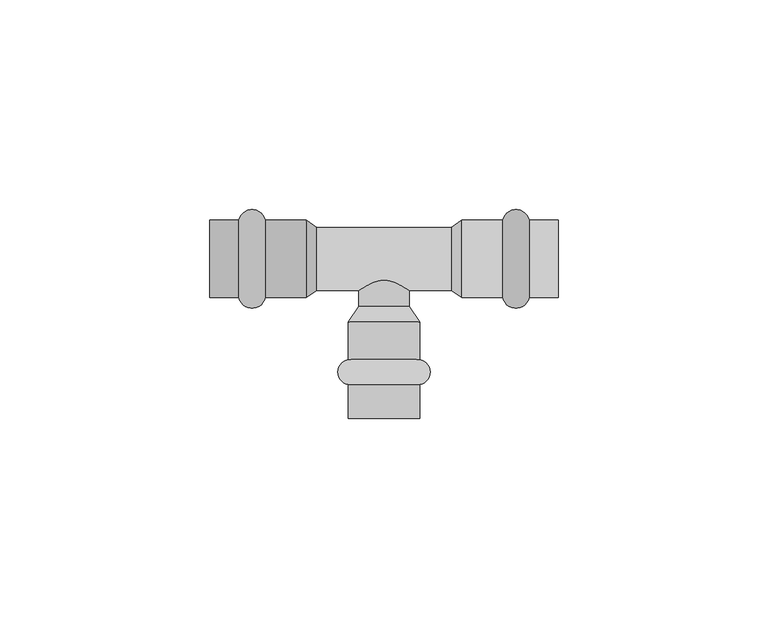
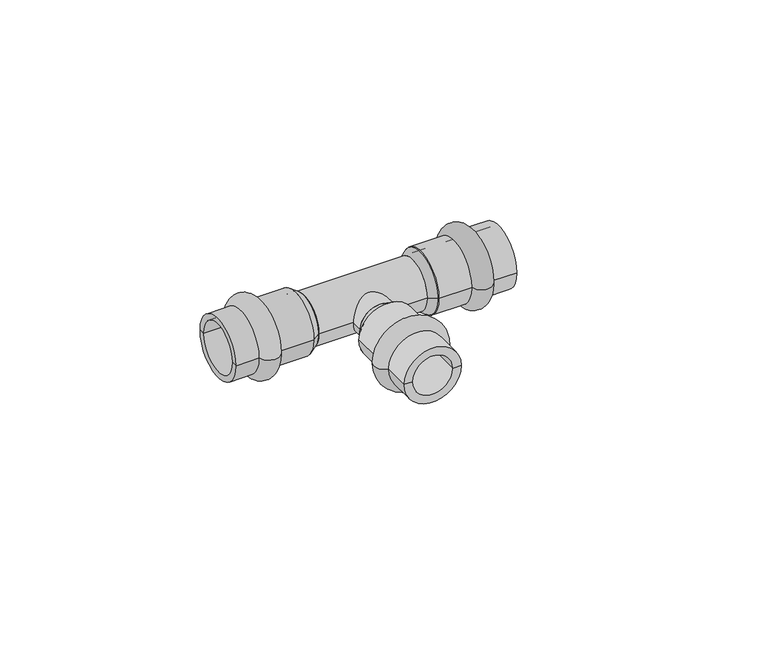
"""IFC4 building model written with IfcOpenShell, lengths in millimetres: pipe fitting geometry, VALTEC_VTi.931.I_Тройник_Ннержавеющая сталь : VTi.931.I."""

from ifc_helpers import new_model, si_unit, point, frame, origin, origin_2d, place, context, project, spatial, polyline, circle_curve, ellipse_curve, trimmed, segment, composite_curve, outline, extrude, source, transform, mapped, element, save
from ifc_brep_helpers import plane_surface, cylinder_surface, revolved_surface, advanced_brep


def pipe_fitting_9c7c7af7(model_context):
    return source(origin(), model_context, "Body", "SolidModel", [
        advanced_brep(
        [(8.5, -29.9580399, 0.0), (-8.5, -29.9580399, 0.0), (-8.5, -24.0419601, 0.0), (8.5, -24.0419601, 0.0), (8.5, -38.0, 0.0), (-8.5, -38.0, 0.0), (6.0, -38.0, 0.0), (-6.0, -38.0, 0.0), (6.0, -15.0, 0.0), (-6.0, -15.0, 0.0), (8.5, -15.0, 0.0), (-8.5, -15.0, 0.0)],
        [
            (0, 1, circle_curve(frame((0.0, -29.9580399, 0.0), z_axis=(0.0, 1.0, 0.0), x_axis=(-1.0, 0.0, 0.0)), 8.5)),
            (1, 2, circle_curve(frame((-8.0, -27.0, 0.0), z_axis=(0.0, 0.0, -1.0), x_axis=(0.0, 1.0, 0.0)), 3.0)),
            (2, 3, circle_curve(frame((0.0, -24.0419601, 0.0), z_axis=(0.0, -1.0, 0.0), x_axis=(-1.0, 0.0, 0.0)), 8.5)),
            (3, 0, circle_curve(frame((8.0, -27.0, 0.0), z_axis=(0.0, 0.0, -1.0), x_axis=(0.0, 1.0, 0.0)), 3.0)),
            (1, 0, circle_curve(frame((0.0, -29.9580399, 0.0), z_axis=(0.0, 1.0, 0.0), x_axis=(-1.0, 0.0, 0.0)), 8.5)),
            (3, 2, circle_curve(frame((0.0, -24.0419601, 0.0), z_axis=(0.0, -1.0, 0.0), x_axis=(-1.0, 0.0, 0.0)), 8.5)),
            (4, 5, circle_curve(frame((0.0, -38.0, 0.0), z_axis=(0.0, 1.0, 0.0), x_axis=(-1.0, 0.0, 0.0)), 8.5)),
            (5, 1),
            (0, 4),
            (5, 4, circle_curve(frame((0.0, -38.0, 0.0), z_axis=(0.0, 1.0, 0.0), x_axis=(-1.0, 0.0, 0.0)), 8.5)),
            (6, 7, circle_curve(frame((0.0, -38.0, 0.0), z_axis=(0.0, 1.0, 0.0), x_axis=(-1.0, 0.0, 0.0)), 6.0)),
            (7, 5),
            (4, 6),
            (7, 6, circle_curve(frame((0.0, -38.0, 0.0), z_axis=(0.0, 1.0, 0.0), x_axis=(-1.0, 0.0, 0.0)), 6.0)),
            (8, 9, circle_curve(frame((0.0, -15.0, 0.0), z_axis=(0.0, 1.0, 0.0), x_axis=(-1.0, 0.0, 0.0)), 6.0)),
            (9, 7),
            (6, 8),
            (9, 8, circle_curve(frame((0.0, -15.0, 0.0), z_axis=(0.0, 1.0, 0.0), x_axis=(-1.0, 0.0, 0.0)), 6.0)),
            (10, 11, circle_curve(frame((0.0, -15.0, 0.0), z_axis=(0.0, 1.0, 0.0), x_axis=(-1.0, 0.0, 0.0)), 8.5)),
            (11, 9),
            (8, 10),
            (11, 10, circle_curve(frame((0.0, -15.0, 0.0), z_axis=(0.0, 1.0, 0.0), x_axis=(-1.0, 0.0, 0.0)), 8.5)),
            (2, 11),
            (10, 3),
        ],
        [
            revolved_surface(trimmed(ellipse_curve(frame((-8.0, -27.0, 0.0), z_axis=(0.0, 0.0, 1.0), x_axis=(0.0, 1.0, 0.0)), 3.0, 3.0), [point((-8.5, -24.0419601, 0.0))], [point((-8.5, -29.9580399, 0.0))], True, "CARTESIAN"), (0.0, -41.5364426, 0.0), (0.0, -1.0, 0.0)),
            cylinder_surface(frame((0.0, -41.5364426, 0.0), z_axis=(0.0, -1.0, 0.0), x_axis=(-1.0, 0.0, 0.0)), 8.5),
            plane_surface(frame((0.0, -38.0, 0.0), z_axis=(0.0, -1.0, 0.0), x_axis=(-1.0, 0.0, 0.0))),
            revolved_surface(polyline([(-6.0, -38.0, 0.0), (-6.0, -15.0, 0.0)]), (0.0, -41.5364426, 0.0), (0.0, -1.0, 0.0)),
            plane_surface(frame((0.0, -15.0, 0.0), z_axis=(0.0, 1.0, 0.0), x_axis=(-1.0, 0.0, 0.0))),
        ],
        [
            (0, [[1, 2, 3, 4]]),
            (0, [[5, -4, 6, -2]]),
            (1, [[7, 8, -1, 9]]),
            (1, [[10, -9, -5, -8]]),
            (2, [[11, 12, -7, 13]]),
            (2, [[14, -13, -10, -12]]),
            (3, [[15, 16, -11, 17]]),
            (3, [[18, -17, -14, -16]]),
            (4, [[19, 20, -15, 21]]),
            (4, [[22, -21, -18, -20]]),
            (1, [[-3, 23, -19, 24]]),
            (1, [[-6, -24, -22, -23]]),
        ],
    ),
        advanced_brep(
        [(34.6122777, 9.25, 0.0), (34.6122777, -9.25, 0.0), (28.2877223, -9.25, 0.0), (28.2877223, 9.25, 0.0), (41.5, 9.25, 0.0), (41.5, -9.25, 0.0), (41.5, 7.5, 0.0), (41.5, -7.5, 0.0), (18.5, 7.5, 0.0), (18.5, -7.5, 0.0), (18.5, 9.25, 0.0), (18.5, -9.25, 0.0)],
        [
            (0, 1, circle_curve(frame((34.6122777, 0.0, 0.0), z_axis=(-1.0, 0.0, 0.0), x_axis=(0.0, -1.0, 0.0)), 9.25)),
            (1, 2, circle_curve(frame((31.45, -8.5, 0.0), z_axis=(0.0, 0.0, -1.0), x_axis=(-1.0, 0.0, 0.0)), 3.25)),
            (2, 3, circle_curve(frame((28.2877223, 0.0, 0.0), z_axis=(1.0, 0.0, 0.0), x_axis=(0.0, -1.0, 0.0)), 9.25)),
            (3, 0, circle_curve(frame((31.45, 8.5, 0.0), z_axis=(0.0, 0.0, -1.0), x_axis=(-1.0, 0.0, 0.0)), 3.25)),
            (1, 0, circle_curve(frame((34.6122777, 0.0, 0.0), z_axis=(-1.0, 0.0, 0.0), x_axis=(0.0, -1.0, 0.0)), 9.25)),
            (3, 2, circle_curve(frame((28.2877223, 0.0, 0.0), z_axis=(1.0, 0.0, 0.0), x_axis=(0.0, -1.0, 0.0)), 9.25)),
            (4, 5, circle_curve(frame((41.5, 0.0, 0.0), z_axis=(-1.0, 0.0, 0.0), x_axis=(0.0, -1.0, 0.0)), 9.25)),
            (5, 1),
            (0, 4),
            (5, 4, circle_curve(frame((41.5, 0.0, 0.0), z_axis=(-1.0, 0.0, 0.0), x_axis=(0.0, -1.0, 0.0)), 9.25)),
            (6, 7, circle_curve(frame((41.5, 0.0, 0.0), z_axis=(-1.0, 0.0, 0.0), x_axis=(0.0, -1.0, 0.0)), 7.5)),
            (7, 5),
            (4, 6),
            (7, 6, circle_curve(frame((41.5, 0.0, 0.0), z_axis=(-1.0, 0.0, 0.0), x_axis=(0.0, -1.0, 0.0)), 7.5)),
            (8, 9, circle_curve(frame((18.5, 0.0, 0.0), z_axis=(-1.0, 0.0, 0.0), x_axis=(0.0, -1.0, 0.0)), 7.5)),
            (9, 7),
            (6, 8),
            (9, 8, circle_curve(frame((18.5, 0.0, 0.0), z_axis=(-1.0, 0.0, 0.0), x_axis=(0.0, -1.0, 0.0)), 7.5)),
            (10, 11, circle_curve(frame((18.5, 0.0, 0.0), z_axis=(-1.0, 0.0, 0.0), x_axis=(0.0, -1.0, 0.0)), 9.25)),
            (11, 9),
            (8, 10),
            (11, 10, circle_curve(frame((18.5, 0.0, 0.0), z_axis=(-1.0, 0.0, 0.0), x_axis=(0.0, -1.0, 0.0)), 9.25)),
            (2, 11),
            (10, 3),
        ],
        [
            revolved_surface(trimmed(ellipse_curve(frame((31.45, -8.5, 0.0), z_axis=(0.0, 0.0, 1.0), x_axis=(-1.0, 0.0, 0.0)), 3.25, 3.25), [point((28.2877223, -9.25, 0.0))], [point((34.6122777, -9.25, 0.0))], True, "CARTESIAN"), (45.0364426, 0.0, 0.0), (1.0, 0.0, 0.0)),
            cylinder_surface(frame((45.0364426, 0.0, 0.0), z_axis=(1.0, 0.0, 0.0), x_axis=(0.0, -1.0, 0.0)), 9.25),
            plane_surface(frame((41.5, 0.0, 0.0), z_axis=(1.0, 0.0, 0.0), x_axis=(0.0, -1.0, 0.0))),
            revolved_surface(polyline([(41.5, -7.5, 0.0), (18.5, -7.5, 0.0)]), (45.0364426, 0.0, 0.0), (1.0, 0.0, 0.0)),
            plane_surface(frame((18.5, 0.0, 0.0), z_axis=(-1.0, 0.0, 0.0), x_axis=(0.0, -1.0, 0.0))),
        ],
        [
            (0, [[1, 2, 3, 4]]),
            (0, [[5, -4, 6, -2]]),
            (1, [[7, 8, -1, 9]]),
            (1, [[10, -9, -5, -8]]),
            (2, [[11, 12, -7, 13]]),
            (2, [[14, -13, -10, -12]]),
            (3, [[15, 16, -11, 17]]),
            (3, [[18, -17, -14, -16]]),
            (4, [[19, 20, -15, 21]]),
            (4, [[22, -21, -18, -20]]),
            (1, [[-3, 23, -19, 24]]),
            (1, [[-6, -24, -22, -23]]),
        ],
    ),
        advanced_brep(
        [(-34.6122777, -9.25, 0.0), (-34.6122777, 9.25, 0.0), (-28.2877223, 9.25, 0.0), (-28.2877223, -9.25, 0.0), (-41.5, -9.25, 0.0), (-41.5, 9.25, 0.0), (-41.5, -7.5, 0.0), (-41.5, 7.5, 0.0), (-18.5, -7.5, 0.0), (-18.5, 7.5, 0.0), (-18.5, -9.25, 0.0), (-18.5, 9.25, 0.0)],
        [
            (0, 1, circle_curve(frame((-34.6122777, 0.0, 0.0), z_axis=(1.0, 0.0, 0.0), x_axis=(0.0, 1.0, 0.0)), 9.25)),
            (1, 2, circle_curve(frame((-31.45, 8.5, 0.0), z_axis=(0.0, 0.0, -1.0), x_axis=(1.0, 0.0, 0.0)), 3.25)),
            (2, 3, circle_curve(frame((-28.2877223, 0.0, 0.0), z_axis=(-1.0, 0.0, 0.0), x_axis=(0.0, 1.0, 0.0)), 9.25)),
            (3, 0, circle_curve(frame((-31.45, -8.5, 0.0), z_axis=(0.0, 0.0, -1.0), x_axis=(1.0, 0.0, 0.0)), 3.25)),
            (1, 0, circle_curve(frame((-34.6122777, 0.0, 0.0), z_axis=(1.0, 0.0, 0.0), x_axis=(0.0, 1.0, 0.0)), 9.25)),
            (3, 2, circle_curve(frame((-28.2877223, 0.0, 0.0), z_axis=(-1.0, 0.0, 0.0), x_axis=(0.0, 1.0, 0.0)), 9.25)),
            (4, 5, circle_curve(frame((-41.5, 0.0, 0.0), z_axis=(1.0, 0.0, 0.0), x_axis=(0.0, 1.0, 0.0)), 9.25)),
            (5, 1),
            (0, 4),
            (5, 4, circle_curve(frame((-41.5, 0.0, 0.0), z_axis=(1.0, 0.0, 0.0), x_axis=(0.0, 1.0, 0.0)), 9.25)),
            (6, 7, circle_curve(frame((-41.5, 0.0, 0.0), z_axis=(1.0, 0.0, 0.0), x_axis=(0.0, 1.0, 0.0)), 7.5)),
            (7, 5),
            (4, 6),
            (7, 6, circle_curve(frame((-41.5, 0.0, 0.0), z_axis=(1.0, 0.0, 0.0), x_axis=(0.0, 1.0, 0.0)), 7.5)),
            (8, 9, circle_curve(frame((-18.5, 0.0, 0.0), z_axis=(1.0, 0.0, 0.0), x_axis=(0.0, 1.0, 0.0)), 7.5)),
            (9, 7),
            (6, 8),
            (9, 8, circle_curve(frame((-18.5, 0.0, 0.0), z_axis=(1.0, 0.0, 0.0), x_axis=(0.0, 1.0, 0.0)), 7.5)),
            (10, 11, circle_curve(frame((-18.5, 0.0, 0.0), z_axis=(1.0, 0.0, 0.0), x_axis=(0.0, 1.0, 0.0)), 9.25)),
            (11, 9),
            (8, 10),
            (11, 10, circle_curve(frame((-18.5, 0.0, 0.0), z_axis=(1.0, 0.0, 0.0), x_axis=(0.0, 1.0, 0.0)), 9.25)),
            (2, 11),
            (10, 3),
        ],
        [
            revolved_surface(trimmed(ellipse_curve(frame((-31.45, 8.5, 0.0), z_axis=(0.0, 0.0, 1.0), x_axis=(1.0, 0.0, 0.0)), 3.25, 3.25), [point((-28.2877223, 9.25, 0.0))], [point((-34.6122777, 9.25, 0.0))], True, "CARTESIAN"), (-45.0364426, 0.0, 0.0), (-1.0, 0.0, 0.0)),
            cylinder_surface(frame((-45.0364426, 0.0, 0.0), z_axis=(-1.0, 0.0, 0.0), x_axis=(0.0, 1.0, 0.0)), 9.25),
            plane_surface(frame((-41.5, 0.0, 0.0), z_axis=(-1.0, 0.0, 0.0), x_axis=(0.0, 1.0, 0.0))),
            revolved_surface(polyline([(-41.5, 7.5, 0.0), (-18.5, 7.5, 0.0)]), (-45.0364426, 0.0, 0.0), (-1.0, 0.0, 0.0)),
            plane_surface(frame((-18.5, 0.0, 0.0), z_axis=(1.0, 0.0, 0.0), x_axis=(0.0, 1.0, 0.0))),
        ],
        [
            (0, [[1, 2, 3, 4]]),
            (0, [[5, -4, 6, -2]]),
            (1, [[7, 8, -1, 9]]),
            (1, [[10, -9, -5, -8]]),
            (2, [[11, 12, -7, 13]]),
            (2, [[14, -13, -10, -12]]),
            (3, [[15, 16, -11, 17]]),
            (3, [[18, -17, -14, -16]]),
            (4, [[19, 20, -15, 21]]),
            (4, [[22, -21, -18, -20]]),
            (1, [[-3, 23, -19, 24]]),
            (1, [[-6, -24, -22, -23]]),
        ],
    ),
        extrude(outline(composite_curve([segment(trimmed(circle_curve(origin_2d(), 7.5), [point((-7.5, 0.0))], [point((7.5, 0.0))], False, "CARTESIAN"), True, "CONTINUOUS"), segment(trimmed(circle_curve(origin_2d(), 7.5), [point((7.5, 0.0))], [point((-7.5, 0.0))], False, "CARTESIAN"), True, "CONTINUOUS")], self_intersect=False)), frame((-16.0, 0.0, 0.0), z_axis=(1.0, 0.0, 0.0), x_axis=(0.0, 1.0, 0.0)), (0.0, 0.0, 1.0), 32.0),
        advanced_brep(
        [(-8.5, -15.0, 0.0), (8.5, -15.0, 0.0), (-6.0, -11.3209826, 0.0), (6.0, -11.3209826, 0.0)],
        [
            (0, 1, circle_curve(frame((0.0, -15.0, 0.0), z_axis=(0.0, -1.0, 0.0), x_axis=(-1.0, 0.0, 0.0)), 8.5)),
            (1, 0, circle_curve(frame((0.0, -15.0, 0.0), z_axis=(0.0, -1.0, 0.0), x_axis=(1.0, 0.0, 0.0)), 8.5)),
            (2, 3, circle_curve(frame((0.0, -11.3209826, 0.0), z_axis=(0.0, 1.0, 0.0), x_axis=(1.0, 0.0, 0.0)), 6.0)),
            (3, 2, circle_curve(frame((0.0, -11.3209826, 0.0), z_axis=(0.0, 1.0, 0.0), x_axis=(-1.0, 0.0, 0.0)), 6.0)),
            (3, 1),
            (0, 2),
        ],
        [
            plane_surface(frame((0.0, -15.0, 0.0), z_axis=(0.0, -1.0, 0.0), x_axis=(0.0, 0.0, 1.0))),
            plane_surface(frame((0.0, -11.3209826, 0.0), z_axis=(0.0, 1.0, 0.0), x_axis=(0.0, 0.0, 1.0))),
            revolved_surface(polyline([(6.000000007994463, -11.3209826, 0.0), (8.5, -15.0, 0.0)]), (0.0, -2.4913408, 0.0), (0.0, -1.0, 0.0)),
            revolved_surface(polyline([(-6.000000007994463, -11.3209826, 0.0), (-8.5, -15.0, 0.0)]), (0.0, -2.4913408, 0.0), (0.0, -1.0, 0.0)),
        ],
        [
            (0, [[1, 2]]),
            (1, [[3, 4]]),
            (2, [[-4, 5, -1, 6]]),
            (3, [[-3, -6, -2, -5]]),
        ],
    ),
        extrude(outline(composite_curve([segment(trimmed(circle_curve(origin_2d(), 6.0), [point((0.0, -6.0))], [point((0.0, 6.0))], False, "CARTESIAN"), True, "CONTINUOUS"), segment(trimmed(circle_curve(origin_2d(), 6.0), [point((0.0, 6.0))], [point((0.0, -6.0))], False, "CARTESIAN"), True, "CONTINUOUS")], self_intersect=False)), frame((0.0, -11.3209826, 0.0), z_axis=(0.0, 1.0, 0.0), x_axis=(0.0, 0.0, 1.0)), (0.0, 0.0, 1.0), 11.3209826),
        advanced_brep(
        [(18.5, -9.25, 0.0), (18.5, 9.25, 0.0), (16.0, -7.5, 0.0), (16.0, 7.5, 0.0)],
        [
            (0, 1, circle_curve(frame((18.5, 0.0, 0.0), z_axis=(1.0, 0.0, 0.0), x_axis=(0.0, -1.0, 0.0)), 9.25)),
            (1, 0, circle_curve(frame((18.5, 0.0, 0.0), z_axis=(1.0, 0.0, 0.0), x_axis=(0.0, 1.0, 0.0)), 9.25)),
            (2, 3, circle_curve(frame((16.0, 0.0, 0.0), z_axis=(-1.0, 0.0, 0.0), x_axis=(0.0, 1.0, 0.0)), 7.5)),
            (3, 2, circle_curve(frame((16.0, 0.0, 0.0), z_axis=(-1.0, 0.0, 0.0), x_axis=(0.0, -1.0, 0.0)), 7.5)),
            (3, 1),
            (0, 2),
        ],
        [
            plane_surface(frame((18.5, 0.0, 0.0), z_axis=(1.0, 0.0, 0.0), x_axis=(0.0, 0.0, 1.0))),
            plane_surface(frame((16.0, 0.0, 0.0), z_axis=(-1.0, 0.0, 0.0), x_axis=(0.0, 0.0, 1.0))),
            revolved_surface(polyline([(16.0, 7.499999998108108, 0.0), (18.5, 9.25, 0.0)]), (5.2857143, 0.0, 0.0), (1.0, 0.0, 0.0)),
            revolved_surface(polyline([(16.0, -7.499999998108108, 0.0), (18.5, -9.25, 0.0)]), (5.2857143, 0.0, 0.0), (1.0, 0.0, 0.0)),
        ],
        [
            (0, [[1, 2]]),
            (1, [[3, 4]]),
            (2, [[-4, 5, -1, 6]]),
            (3, [[-3, -6, -2, -5]]),
        ],
    ),
        advanced_brep(
        [(-18.5, -9.25, 0.0), (-18.5, 9.25, 0.0), (-16.0, -7.5, 0.0), (-16.0, 7.5, 0.0)],
        [
            (0, 1, circle_curve(frame((-18.5, 0.0, 0.0), z_axis=(-1.0, 0.0, 0.0), x_axis=(0.0, -1.0, 0.0)), 9.25)),
            (1, 0, circle_curve(frame((-18.5, 0.0, 0.0), z_axis=(-1.0, 0.0, 0.0), x_axis=(0.0, 1.0, 0.0)), 9.25)),
            (2, 3, circle_curve(frame((-16.0, 0.0, 0.0), z_axis=(1.0, 0.0, 0.0), x_axis=(0.0, 1.0, 0.0)), 7.5)),
            (3, 2, circle_curve(frame((-16.0, 0.0, 0.0), z_axis=(1.0, 0.0, 0.0), x_axis=(0.0, -1.0, 0.0)), 7.5)),
            (2, 0),
            (1, 3),
        ],
        [
            plane_surface(frame((-18.5, 0.0, 0.0), z_axis=(-1.0, 0.0, 0.0), x_axis=(0.0, 0.0, -1.0))),
            plane_surface(frame((-16.0, 0.0, 0.0), z_axis=(1.0, 0.0, 0.0), x_axis=(0.0, 0.0, -1.0))),
            revolved_surface(polyline([(-16.0, -7.499999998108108, 0.0), (-18.5, -9.25, 0.0)]), (-5.2857143, 0.0, 0.0), (-1.0, 0.0, 0.0)),
            revolved_surface(polyline([(-16.0, 7.499999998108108, 0.0), (-18.5, 9.25, 0.0)]), (-5.2857143, 0.0, 0.0), (-1.0, 0.0, 0.0)),
        ],
        [
            (0, [[1, 2]]),
            (1, [[3, 4]]),
            (2, [[-3, 5, -2, 6]]),
            (3, [[-4, -6, -1, -5]]),
        ],
    ),
    ])


if __name__ == "__main__":
    model = new_model("IFC4")
    model_context = context("Model", 3, world=origin())
    ifc_project = project(units=[si_unit("LENGTHUNIT", "METRE", prefix="MILLI")], contexts=[model_context])
    site = spatial("IfcSite", under=ifc_project)
    building = spatial("IfcBuilding", under=site)
    placement = place(None, origin())
    pipe_fitting_shape = pipe_fitting_9c7c7af7(model_context)
    element("IfcPipeFitting", 1, ObjectType="VALTEC_VTi.931.I_Тройник_Ннержавеющая сталь : VTi.931.I", at=placement, inside=building, context=model_context, shape_type="MappedRepresentation", body=[
        mapped(pipe_fitting_shape, transform((0.0, 0.0, 0.0), x_axis=(1.0, 0.0, 0.0), y_axis=(0.0, 1.0, 0.0), z_axis=(0.0, 0.0, 1.0))),
    ])
    save(model, "model.ifc")
